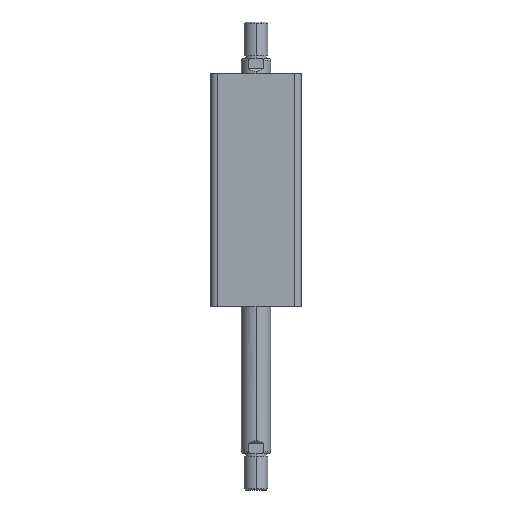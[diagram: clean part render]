
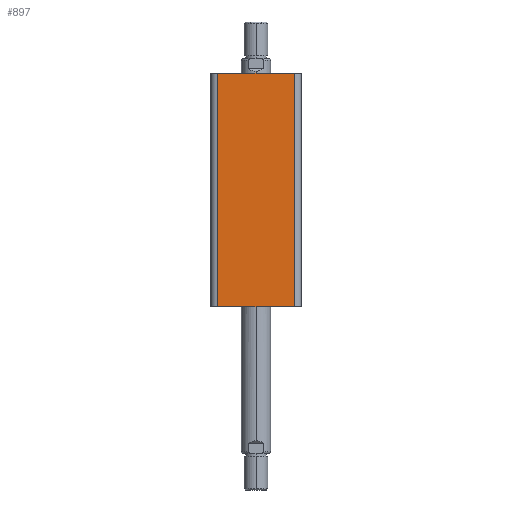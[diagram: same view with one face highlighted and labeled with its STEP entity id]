
A CAD part, left-side view. The second image highlights one B-rep face of the part: STEP entity #897.
In plain terms, the highlighted planar face has unit normal (-1, 0, 0).
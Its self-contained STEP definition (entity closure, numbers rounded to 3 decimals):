
#691 = VERTEX_POINT ( 'NONE', #1125 ) ;
#698 = VERTEX_POINT ( 'NONE', #1132 ) ;
#710 = VERTEX_POINT ( 'NONE', #1144 ) ;
#718 = VERTEX_POINT ( 'NONE', #1152 ) ;
#897 = ADVANCED_FACE ( 'NONE', ( #2869 ), #1306, .F. ) ;
#1125 = CARTESIAN_POINT ( 'NONE',  ( -31., -26., 0. ) ) ;
#1132 = CARTESIAN_POINT ( 'NONE',  ( -31., 26., 159. ) ) ;
#1144 = CARTESIAN_POINT ( 'NONE',  ( -31., -26., 159. ) ) ;
#1152 = CARTESIAN_POINT ( 'NONE',  ( -31., 26., 0. ) ) ;
#1299 = CARTESIAN_POINT ( 'NONE',  ( -31., 31., 159. ) ) ;
#1306 = PLANE ( 'NONE',  #2165 ) ;
#1308 = DIRECTION ( 'NONE',  ( 1., 0., 0. ) ) ;
#1309 = DIRECTION ( 'NONE',  ( 0., 1., 0. ) ) ;
#1346 = CARTESIAN_POINT ( 'NONE',  ( -31., 31., 159. ) ) ;
#1350 = CARTESIAN_POINT ( 'NONE',  ( -31., 26., 159. ) ) ;
#1352 = DIRECTION ( 'NONE',  ( 0., 0., -1. ) ) ;
#1353 = DIRECTION ( 'NONE',  ( 0., -1., 0. ) ) ;
#1354 = CARTESIAN_POINT ( 'NONE',  ( -31., -26., 159. ) ) ;
#1355 = DIRECTION ( 'NONE',  ( 0., 0., 1. ) ) ;
#1356 = CARTESIAN_POINT ( 'NONE',  ( -31., 31., 0. ) ) ;
#1357 = DIRECTION ( 'NONE',  ( 0., -1., 0. ) ) ;
#1986 = EDGE_CURVE ( 'NONE', #698, #718, #2900, .T. ) ;
#1987 = EDGE_CURVE ( 'NONE', #698, #710, #2898, .T. ) ;
#1988 = EDGE_CURVE ( 'NONE', #691, #710, #2904, .T. ) ;
#1989 = EDGE_CURVE ( 'NONE', #718, #691, #2906, .T. ) ;
#2165 = AXIS2_PLACEMENT_3D ( 'NONE', #1299, #1308, #1309 ) ;
#2411 = ORIENTED_EDGE ( 'NONE', *, *, #1986, .T. ) ;
#2412 = ORIENTED_EDGE ( 'NONE', *, *, #1987, .F. ) ;
#2413 = ORIENTED_EDGE ( 'NONE', *, *, #1988, .T. ) ;
#2414 = ORIENTED_EDGE ( 'NONE', *, *, #1989, .T. ) ;
#2869 = FACE_OUTER_BOUND ( 'NONE', #3450, .T. ) ;
#2898 = LINE ( 'NONE', #1346, #2905 ) ;
#2900 = LINE ( 'NONE', #1350, #2903 ) ;
#2903 = VECTOR ( 'NONE', #1352, 1000. ) ;
#2904 = LINE ( 'NONE', #1354, #2907 ) ;
#2905 = VECTOR ( 'NONE', #1353, 1000. ) ;
#2906 = LINE ( 'NONE', #1356, #2909 ) ;
#2907 = VECTOR ( 'NONE', #1355, 1000. ) ;
#2909 = VECTOR ( 'NONE', #1357, 1000. ) ;
#3450 = EDGE_LOOP ( 'NONE', ( #2414, #2413, #2412, #2411 ) ) ;
